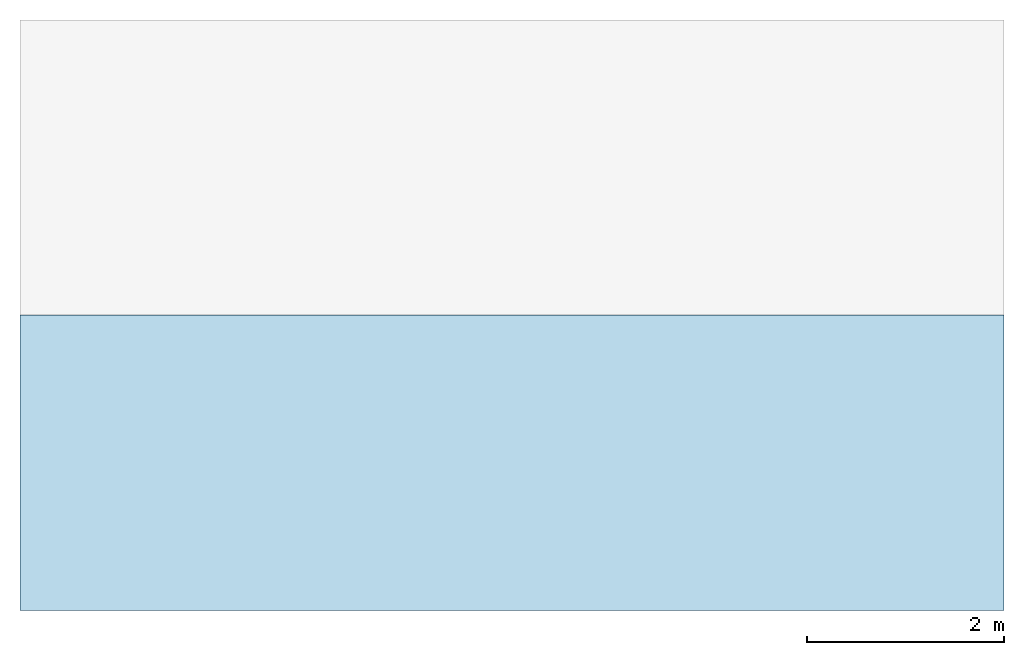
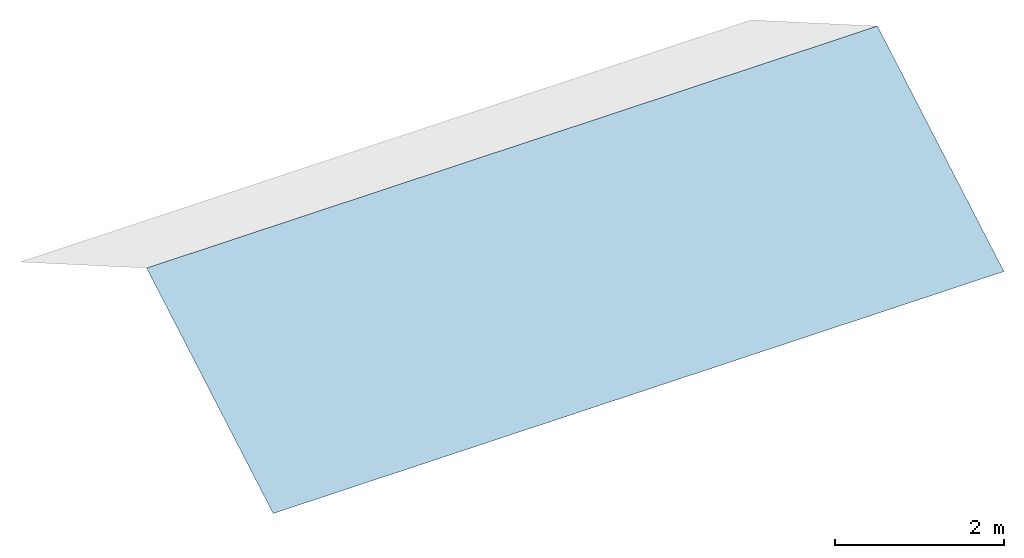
# One storey, incomplete: 1 slab, 1 element without a shape of its own.
"""IFC4X3_ADD2 building model written with IfcOpenShell, lengths in metres."""

from ifc_helpers import new_model, si_unit, origin, origin_with_axes, place, context, project, spatial, polygons, element, aggregate, save


model = new_model("IFC4X3_ADD2")

# Units and contexts
model_context = context("Model", 3, precision=1e-07, world=origin_with_axes())
ifc_project = project(units=[si_unit("LENGTHUNIT", "METRE"), si_unit("AREAUNIT", "SQUARE_METRE"), si_unit("VOLUMEUNIT", "CUBIC_METRE")], contexts=[model_context])

# Site, building, storey
site_placement = place(None, origin())
site = spatial("IfcSite", under=ifc_project, at=site_placement, Name="Stavenisko", CompositionType="ELEMENT")
building_placement = place(site_placement, origin())
building = spatial("IfcBuilding", under=site, at=building_placement, Name="Skúšobná sedlová strecha", CompositionType="ELEMENT")
storey_placement = place(building_placement, origin())
storey = spatial("IfcBuildingStorey", under=building, at=storey_placement, Name="Strecha", CompositionType="ELEMENT", Elevation=3.0)

# Roof, slab
roof_placement = place(storey_placement, origin())
roof = element("IfcRoof", 1, at=roof_placement, inside=storey, Name="Strecha", ObjectType="GABLE", PredefinedType="GABLE_ROOF")
slab_placement = place(roof_placement, origin())
slab = element("IfcSlab", 2, at=slab_placement, Name="Strešná plocha face-7f29ebdd-5568-3a92-861d-d7df8271fc61", ObjectType="ROOF_FACE", PredefinedType="ROOF", context=model_context, shape_type="Tessellation", body=[
    polygons([(0.0, 0.0, 3.0), (10.0, 0.0, 3.0), (10.0, 3.0, 4.732050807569), (0.0, 3.0, 4.732050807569)], [[[1, 2, 3, 4]]], closed=False),
])
aggregate(roof, [slab])

save(model, "model.ifc")
